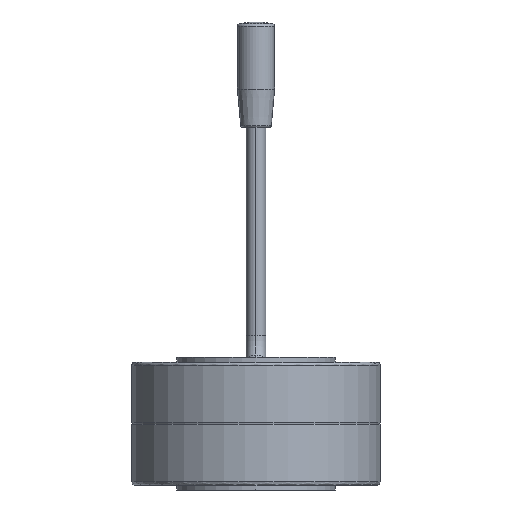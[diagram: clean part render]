
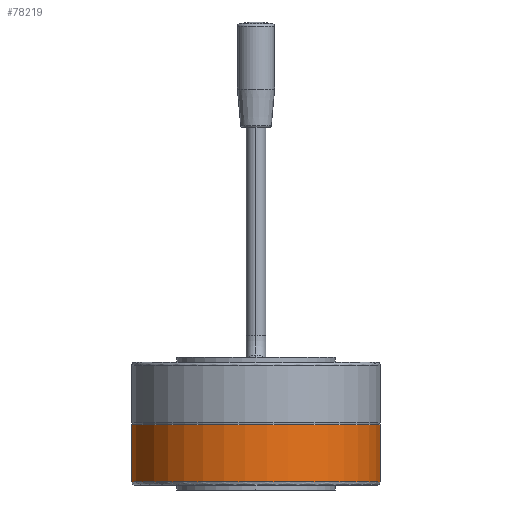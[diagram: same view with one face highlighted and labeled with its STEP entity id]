
A CAD part, front view. The second image highlights one B-rep face of the part: STEP entity #78219.
In plain terms, the highlighted cylindrical face has radius 77 mm (diameter 154 mm), a partial arc.
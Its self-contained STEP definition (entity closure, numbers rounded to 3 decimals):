
#285=DIRECTION('',(0.,0.,-1.));
#286=VECTOR('',#285,35.376);
#287=CARTESIAN_POINT('',(32.078,70.,-0.624));
#288=LINE('',#287,#286);
#306=DIRECTION('',(0.,0.,-1.));
#307=VECTOR('',#306,35.376);
#308=CARTESIAN_POINT('',(-32.078,70.,-0.624));
#309=LINE('',#308,#307);
#505=CARTESIAN_POINT('',(0.,0.,-36.));
#506=DIRECTION('',(0.,0.,-1.));
#507=DIRECTION('',(0.417,0.909,0.));
#508=AXIS2_PLACEMENT_3D('',#505,#506,#507);
#571=CARTESIAN_POINT('',(0.,0.,-0.624));
#572=DIRECTION('',(0.,0.,-1.));
#573=DIRECTION('',(0.417,0.909,0.));
#574=AXIS2_PLACEMENT_3D('',#571,#572,#573);
#75132=CARTESIAN_POINT('',(32.078,70.,-36.));
#75133=CARTESIAN_POINT('',(-32.078,70.,-36.));
#75134=VERTEX_POINT('',#75132);
#75135=VERTEX_POINT('',#75133);
#75140=CARTESIAN_POINT('',(32.078,70.,-0.624));
#75141=VERTEX_POINT('',#75140);
#75142=CARTESIAN_POINT('',(-32.078,70.,-0.624));
#75143=VERTEX_POINT('',#75142);
#78207=CARTESIAN_POINT('',(0.,0.,45.1));
#78208=DIRECTION('',(0.,0.,-1.));
#78209=DIRECTION('',(1.,0.,0.));
#78210=AXIS2_PLACEMENT_3D('',#78207,#78208,#78209);
#78211=CYLINDRICAL_SURFACE('',#78210,77.);
#78213=ORIENTED_EDGE('',*,*,#78212,.F.);
#78214=ORIENTED_EDGE('',*,*,#78111,.T.);
#78215=ORIENTED_EDGE('',*,*,#78192,.T.);
#78216=ORIENTED_EDGE('',*,*,#78127,.F.);
#78217=EDGE_LOOP('',(#78213,#78214,#78215,#78216));
#78218=FACE_OUTER_BOUND('',#78217,.F.);
#78219=ADVANCED_FACE('',(#78218),#78211,.T.);
#509=CIRCLE('',#508,77.);
#575=CIRCLE('',#574,77.);
#78111=EDGE_CURVE('',#75141,#75134,#288,.T.);
#78127=EDGE_CURVE('',#75143,#75135,#309,.T.);
#78192=EDGE_CURVE('',#75134,#75135,#509,.T.);
#78212=EDGE_CURVE('',#75141,#75143,#575,.T.);
